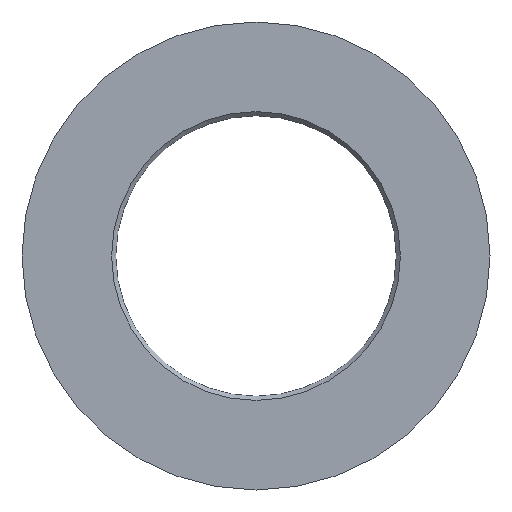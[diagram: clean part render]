
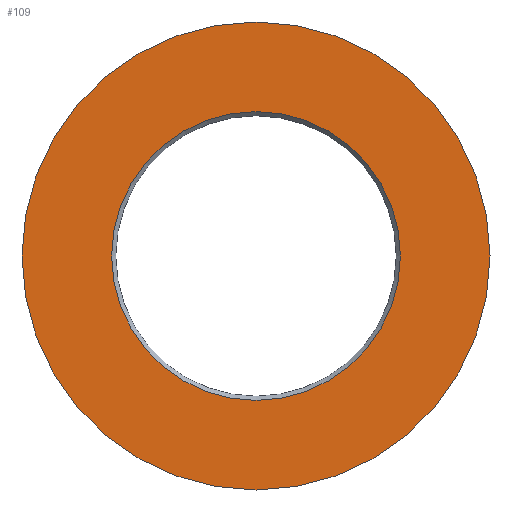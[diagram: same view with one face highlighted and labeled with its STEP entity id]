
A CAD part, front view. The second image highlights one B-rep face of the part: STEP entity #109.
In plain terms, the highlighted planar face has unit normal (0, -1, 0).
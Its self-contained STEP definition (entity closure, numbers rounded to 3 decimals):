
#16=FACE_BOUND('',#34,.T.);
#18=PLANE('',#144);
#25=FACE_OUTER_BOUND('',#33,.T.);
#33=EDGE_LOOP('',(#90));
#34=EDGE_LOOP('',(#91));
#51=CIRCLE('',#143,34.55);
#52=CIRCLE('',#145,56.);
#59=VERTEX_POINT('',#202);
#60=VERTEX_POINT('',#206);
#70=EDGE_CURVE('',#59,#59,#51,.T.);
#71=EDGE_CURVE('',#60,#60,#52,.T.);
#90=ORIENTED_EDGE('',*,*,#71,.F.);
#91=ORIENTED_EDGE('',*,*,#70,.F.);
#109=ADVANCED_FACE('',(#25,#16),#18,.F.);
#143=AXIS2_PLACEMENT_3D('',#204,#171,#172);
#144=AXIS2_PLACEMENT_3D('',#205,#173,#174);
#145=AXIS2_PLACEMENT_3D('',#207,#175,#176);
#171=DIRECTION('center_axis',(0.,-1.,0.));
#172=DIRECTION('ref_axis',(1.,0.,0.));
#173=DIRECTION('center_axis',(0.,1.,0.));
#174=DIRECTION('ref_axis',(0.,0.,1.));
#175=DIRECTION('center_axis',(0.,1.,0.));
#176=DIRECTION('ref_axis',(-1.,0.,0.));
#202=CARTESIAN_POINT('',(-34.55,0.,0.));
#204=CARTESIAN_POINT('Origin',(0.,0.,0.));
#205=CARTESIAN_POINT('Origin',(0.,0.,0.));
#206=CARTESIAN_POINT('',(-56.,0.,0.));
#207=CARTESIAN_POINT('Origin',(0.,0.,0.));
